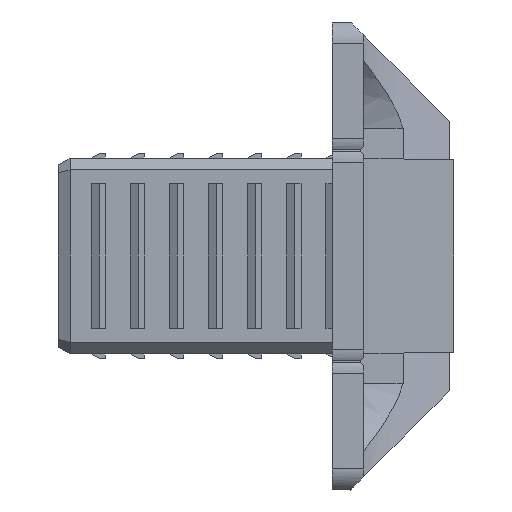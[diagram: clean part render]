
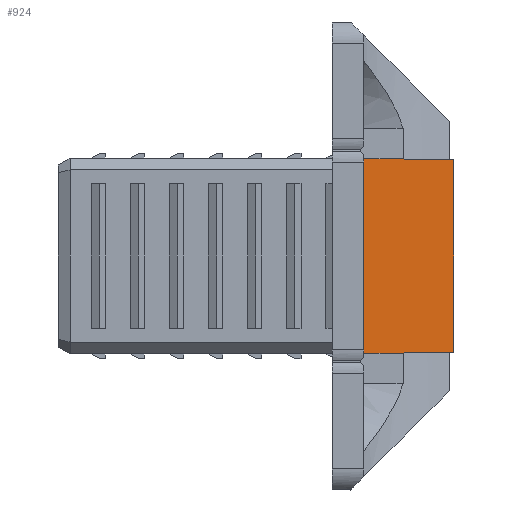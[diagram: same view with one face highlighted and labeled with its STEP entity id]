
A CAD part, left-side view. The second image highlights one B-rep face of the part: STEP entity #924.
In plain terms, the highlighted planar face has unit normal (-1, -0.018, 0).
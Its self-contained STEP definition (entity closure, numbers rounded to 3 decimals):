
#129 = EDGE_CURVE ( 'NONE', #6444, #3956, #9054, .T. ) ;
#291 = CARTESIAN_POINT ( 'NONE',  ( -13., -0.65, 12.5 ) ) ;
#364 = LINE ( 'NONE', #2058, #1619 ) ;
#387 = VECTOR ( 'NONE', #5250, 1000. ) ;
#592 = EDGE_LOOP ( 'NONE', ( #3781, #8169, #9404, #3647 ) ) ;
#924 = ADVANCED_FACE ( 'NONE', ( #8830 ), #3554, .T. ) ;
#1619 = VECTOR ( 'NONE', #9285, 1000. ) ;
#1943 = CARTESIAN_POINT ( 'NONE',  ( -13., -0.65, 12.5 ) ) ;
#2016 = VECTOR ( 'NONE', #3270, 1000. ) ;
#2058 = CARTESIAN_POINT ( 'NONE',  ( -12.782, -13.15, 12.5 ) ) ;
#2436 = VERTEX_POINT ( 'NONE', #6875 ) ;
#2666 = DIRECTION ( 'NONE',  ( 0., 0., -1. ) ) ;
#3039 = CARTESIAN_POINT ( 'NONE',  ( -13., -0.65, 12.5 ) ) ;
#3083 = EDGE_CURVE ( 'NONE', #6636, #6444, #364, .T. ) ;
#3270 = DIRECTION ( 'NONE',  ( -0.017, 1., -0.017 ) ) ;
#3554 = PLANE ( 'NONE',  #7464 ) ;
#3647 = ORIENTED_EDGE ( 'NONE', *, *, #7516, .T. ) ;
#3781 = ORIENTED_EDGE ( 'NONE', *, *, #8968, .T. ) ;
#3956 = VERTEX_POINT ( 'NONE', #4586 ) ;
#4586 = CARTESIAN_POINT ( 'NONE',  ( -13., -0.65, -12.5 ) ) ;
#4860 = CARTESIAN_POINT ( 'NONE',  ( -12.782, -13.15, 12.282 ) ) ;
#4911 = DIRECTION ( 'NONE',  ( 0.017, -1., 0. ) ) ;
#5250 = DIRECTION ( 'NONE',  ( -0.017, 1., 0.017 ) ) ;
#6444 = VERTEX_POINT ( 'NONE', #7334 ) ;
#6636 = VERTEX_POINT ( 'NONE', #4860 ) ;
#6644 = DIRECTION ( 'NONE',  ( -1., -0.017, 0. ) ) ;
#6875 = CARTESIAN_POINT ( 'NONE',  ( -13., -0.65, 12.5 ) ) ;
#7334 = CARTESIAN_POINT ( 'NONE',  ( -12.782, -13.15, -12.282 ) ) ;
#7464 = AXIS2_PLACEMENT_3D ( 'NONE', #3039, #6644, #4911 ) ;
#7516 = EDGE_CURVE ( 'NONE', #6636, #2436, #7556, .T. ) ;
#7540 = VECTOR ( 'NONE', #2666, 1000. ) ;
#7556 = LINE ( 'NONE', #291, #387 ) ;
#8169 = ORIENTED_EDGE ( 'NONE', *, *, #129, .F. ) ;
#8361 = CARTESIAN_POINT ( 'NONE',  ( -13., -0.65, -12.5 ) ) ;
#8830 = FACE_OUTER_BOUND ( 'NONE', #592, .T. ) ;
#8968 = EDGE_CURVE ( 'NONE', #2436, #3956, #9356, .T. ) ;
#9054 = LINE ( 'NONE', #8361, #2016 ) ;
#9285 = DIRECTION ( 'NONE',  ( 0., 0., -1. ) ) ;
#9356 = LINE ( 'NONE', #1943, #7540 ) ;
#9404 = ORIENTED_EDGE ( 'NONE', *, *, #3083, .F. ) ;
